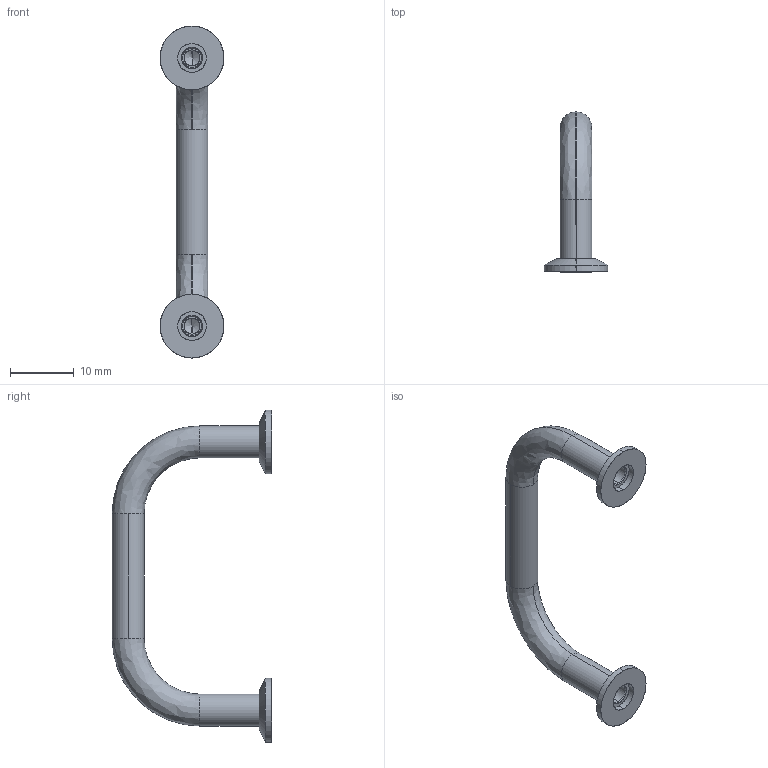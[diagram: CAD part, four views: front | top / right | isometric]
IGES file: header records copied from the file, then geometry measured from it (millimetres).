
Start section: SolidWorks IGES file using analytic representation for surfaces
Global section: file name: C:\Documents and Settings\IANO\Desktop\Temp File\Process pending\PCN pending\78700_v2\78700_v2_20170116_IGES\78700.W0004.igs; native system: SolidWorks 2009; preprocessor: SolidWorks 2009; author: IANO; date: 170310.095524; units: millimetre
Bounding box: 10 x 25 x 52 mm (x, y, z)
Surface area: 1708.3 mm2 (no closed solid volume)
Topology: 0 solids, 0 shells, 52 faces, 816 edges, 812 vertices
Faces by surface type: revolution 38, bspline 14
